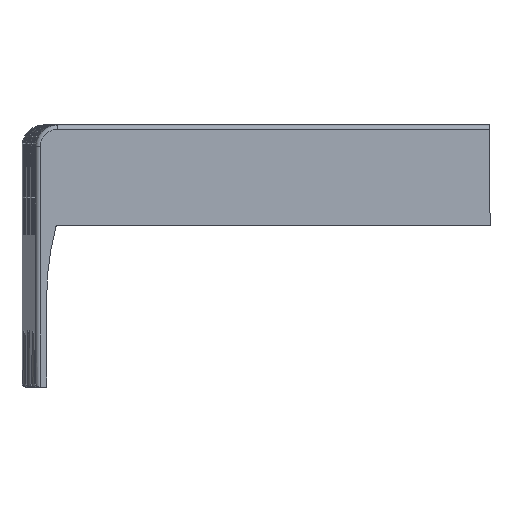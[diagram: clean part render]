
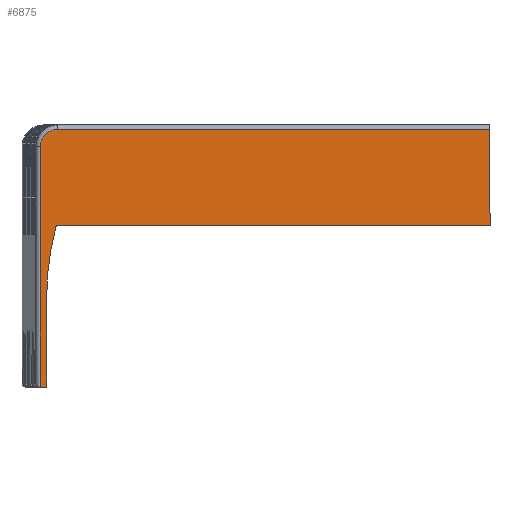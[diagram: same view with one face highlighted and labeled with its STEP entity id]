
A CAD part, left-side view. The second image highlights one B-rep face of the part: STEP entity #6875.
In plain terms, the highlighted planar face has unit normal (-1, -0.018, 0) as drawn and (1, 0, 0) by its records, which use the part's own axes.
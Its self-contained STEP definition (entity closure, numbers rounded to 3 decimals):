
#80 = DIRECTION ( 'NONE',  ( 0., 1., 0. ) ) ;
#305 = FACE_OUTER_BOUND ( 'NONE', #8530, .T. ) ;
#380 = DIRECTION ( 'NONE',  ( 0., -1., 0. ) ) ;
#419 = DIRECTION ( 'NONE',  ( 1., 0., 0. ) ) ;
#554 = CARTESIAN_POINT ( 'NONE',  ( 90.5, 1., -47. ) ) ;
#707 = CARTESIAN_POINT ( 'NONE',  ( 90.5, 1., -47. ) ) ;
#1046 = CARTESIAN_POINT ( 'NONE',  ( 90.5, 5., -47. ) ) ;
#1236 = ORIENTED_EDGE ( 'NONE', *, *, #9060, .T. ) ;
#1305 = VERTEX_POINT ( 'NONE', #10183 ) ;
#1319 = VECTOR ( 'NONE', #1998, 1000. ) ;
#1452 = AXIS2_PLACEMENT_3D ( 'NONE', #7006, #419, #10343 ) ;
#1537 = DIRECTION ( 'NONE',  ( 0., 0., 1. ) ) ;
#1765 = LINE ( 'NONE', #707, #9857 ) ;
#1783 = CARTESIAN_POINT ( 'NONE',  ( 90.5, 1., 52. ) ) ;
#1998 = DIRECTION ( 'NONE',  ( 0., 0., -1. ) ) ;
#2152 = ORIENTED_EDGE ( 'NONE', *, *, #10162, .T. ) ;
#2253 = EDGE_CURVE ( 'NONE', #3550, #10474, #2256, .T. ) ;
#2256 = CIRCLE ( 'NONE', #3842, 0.5 ) ;
#2531 = CARTESIAN_POINT ( 'NONE',  ( 90.5, 5., -51. ) ) ;
#2960 = VERTEX_POINT ( 'NONE', #10174 ) ;
#3019 = ORIENTED_EDGE ( 'NONE', *, *, #10471, .F. ) ;
#3103 = VECTOR ( 'NONE', #80, 1000. ) ;
#3475 = LINE ( 'NONE', #4398, #10567 ) ;
#3550 = VERTEX_POINT ( 'NONE', #8139 ) ;
#3590 = CARTESIAN_POINT ( 'NONE',  ( 90.5, 60., -49.5 ) ) ;
#3665 = PLANE ( 'NONE',  #1452 ) ;
#3713 = VECTOR ( 'NONE', #10504, 1000. ) ;
#3828 = LINE ( 'NONE', #7168, #3713 ) ;
#3842 = AXIS2_PLACEMENT_3D ( 'NONE', #7231, #6517, #4933 ) ;
#4398 = CARTESIAN_POINT ( 'NONE',  ( 90.5, 60., -51. ) ) ;
#4589 = EDGE_CURVE ( 'NONE', #9758, #5751, #3828, .T. ) ;
#4673 = DIRECTION ( 'NONE',  ( -1., 0., 0. ) ) ;
#4933 = DIRECTION ( 'NONE',  ( 0., -0.256, -0.967 ) ) ;
#4987 = ORIENTED_EDGE ( 'NONE', *, *, #7728, .T. ) ;
#5122 = CARTESIAN_POINT ( 'NONE',  ( 90.5, 23., -46.916 ) ) ;
#5274 = CARTESIAN_POINT ( 'NONE',  ( 90.5, 39.5, -49.5 ) ) ;
#5388 = CARTESIAN_POINT ( 'NONE',  ( 90.5, 60., -51. ) ) ;
#5484 = CARTESIAN_POINT ( 'NONE',  ( 90.5, 39.5, 13.475 ) ) ;
#5751 = VERTEX_POINT ( 'NONE', #2531 ) ;
#5884 = VERTEX_POINT ( 'NONE', #6696 ) ;
#6095 = DIRECTION ( 'NONE',  ( -1., 0., 0. ) ) ;
#6117 = ORIENTED_EDGE ( 'NONE', *, *, #2253, .T. ) ;
#6134 = ORIENTED_EDGE ( 'NONE', *, *, #4589, .F. ) ;
#6290 = VERTEX_POINT ( 'NONE', #5274 ) ;
#6444 = EDGE_CURVE ( 'NONE', #8709, #2960, #1765, .T. ) ;
#6458 = ORIENTED_EDGE ( 'NONE', *, *, #9791, .F. ) ;
#6517 = DIRECTION ( 'NONE',  ( -1., 0., 0. ) ) ;
#6696 = CARTESIAN_POINT ( 'NONE',  ( 90.5, 60., -49.5 ) ) ;
#6875 = ADVANCED_FACE ( 'NONE', ( #305 ), #3665, .T. ) ;
#6908 = AXIS2_PLACEMENT_3D ( 'NONE', #1046, #6095, #9793 ) ;
#6949 = ORIENTED_EDGE ( 'NONE', *, *, #9090, .F. ) ;
#7006 = CARTESIAN_POINT ( 'NONE',  ( 90.5, 0., 52. ) ) ;
#7083 = CIRCLE ( 'NONE', #6908, 4. ) ;
#7168 = CARTESIAN_POINT ( 'NONE',  ( 90.5, 60., -51. ) ) ;
#7231 = CARTESIAN_POINT ( 'NONE',  ( 90.5, 23.5, -46.916 ) ) ;
#7728 = EDGE_CURVE ( 'NONE', #6290, #3550, #7782, .T. ) ;
#7782 = CIRCLE ( 'NONE', #9011, 62.975 ) ;
#7815 = LINE ( 'NONE', #7921, #1319 ) ;
#7921 = CARTESIAN_POINT ( 'NONE',  ( 90.5, 23., 52. ) ) ;
#8139 = CARTESIAN_POINT ( 'NONE',  ( 90.5, 23.372, -47.4 ) ) ;
#8461 = DIRECTION ( 'NONE',  ( 0., 0., 1. ) ) ;
#8505 = VECTOR ( 'NONE', #380, 1000. ) ;
#8530 = EDGE_LOOP ( 'NONE', ( #3019, #10253, #6949, #6134, #1236, #2152, #4987, #6117, #6458 ) ) ;
#8709 = VERTEX_POINT ( 'NONE', #554 ) ;
#9011 = AXIS2_PLACEMENT_3D ( 'NONE', #5484, #4673, #9705 ) ;
#9060 = EDGE_CURVE ( 'NONE', #9758, #5884, #3475, .T. ) ;
#9090 = EDGE_CURVE ( 'NONE', #5751, #8709, #7083, .T. ) ;
#9495 = LINE ( 'NONE', #3590, #8505 ) ;
#9705 = DIRECTION ( 'NONE',  ( 0., 0., -1. ) ) ;
#9758 = VERTEX_POINT ( 'NONE', #5388 ) ;
#9791 = EDGE_CURVE ( 'NONE', #1305, #10474, #7815, .T. ) ;
#9793 = DIRECTION ( 'NONE',  ( 0., 0., -1. ) ) ;
#9857 = VECTOR ( 'NONE', #1537, 1000. ) ;
#9944 = LINE ( 'NONE', #1783, #3103 ) ;
#10162 = EDGE_CURVE ( 'NONE', #5884, #6290, #9495, .T. ) ;
#10174 = CARTESIAN_POINT ( 'NONE',  ( 90.5, 1., 52. ) ) ;
#10183 = CARTESIAN_POINT ( 'NONE',  ( 90.5, 23., 52. ) ) ;
#10253 = ORIENTED_EDGE ( 'NONE', *, *, #6444, .F. ) ;
#10343 = DIRECTION ( 'NONE',  ( 0., 1., 0. ) ) ;
#10471 = EDGE_CURVE ( 'NONE', #2960, #1305, #9944, .T. ) ;
#10474 = VERTEX_POINT ( 'NONE', #5122 ) ;
#10504 = DIRECTION ( 'NONE',  ( 0., -1., 0. ) ) ;
#10567 = VECTOR ( 'NONE', #8461, 1000. ) ;
